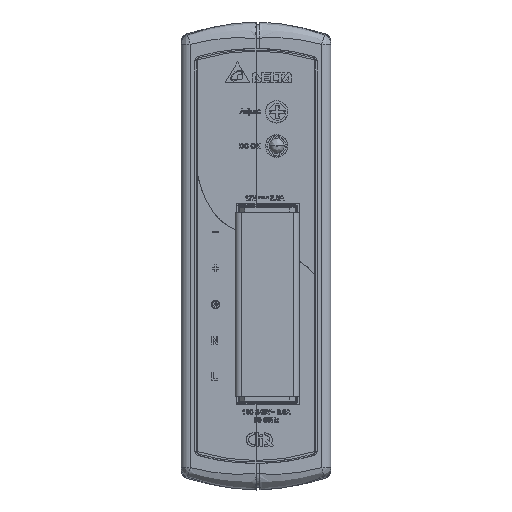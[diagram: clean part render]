
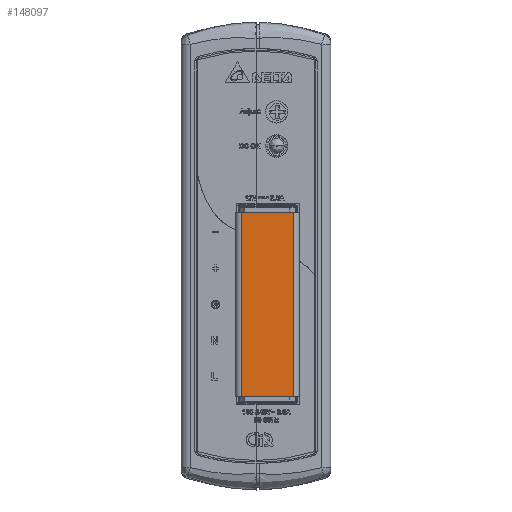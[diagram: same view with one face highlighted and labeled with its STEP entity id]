
A CAD part, top view. The second image highlights one B-rep face of the part: STEP entity #148097.
In plain terms, the highlighted planar face has unit normal (0, 0, 1) as drawn and (0, 1, 0) by its records, which use the part's own axes.
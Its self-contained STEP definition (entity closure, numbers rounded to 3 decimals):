
#147682=DIRECTION('',(-1.,0.,0.));
#147683=VECTOR('',#147682,11.15);
#147684=CARTESIAN_POINT('',(5.575,12.372,0.));
#147685=LINE('',#147684,#147683);
#147775=DIRECTION('',(0.,0.,1.));
#147776=VECTOR('',#147775,39.32);
#147777=CARTESIAN_POINT('',(-5.575,12.372,0.));
#147778=LINE('',#147777,#147776);
#147782=DIRECTION('',(0.,0.,1.));
#147783=VECTOR('',#147782,39.32);
#147784=CARTESIAN_POINT('',(5.575,12.372,0.));
#147785=LINE('',#147784,#147783);
#147869=DIRECTION('',(-1.,0.,0.));
#147870=VECTOR('',#147869,11.15);
#147871=CARTESIAN_POINT('',(5.575,12.372,39.32));
#147872=LINE('',#147871,#147870);
#147915=CARTESIAN_POINT('',(5.575,12.372,0.));
#147916=VERTEX_POINT('',#147915);
#147917=CARTESIAN_POINT('',(-5.575,12.372,0.));
#147918=VERTEX_POINT('',#147917);
#147939=CARTESIAN_POINT('',(5.575,12.372,39.32));
#147940=VERTEX_POINT('',#147939);
#147941=CARTESIAN_POINT('',(-5.575,12.372,39.32));
#147942=VERTEX_POINT('',#147941);
#148084=CARTESIAN_POINT('',(5.575,12.372,0.));
#148085=DIRECTION('',(0.,1.,0.));
#148086=DIRECTION('',(-1.,0.,0.));
#148087=AXIS2_PLACEMENT_3D('',#148084,#148085,#148086);
#148088=PLANE('',#148087);
#148089=ORIENTED_EDGE('',*,*,#147968,.F.);
#148091=ORIENTED_EDGE('',*,*,#148090,.T.);
#148093=ORIENTED_EDGE('',*,*,#148092,.T.);
#148094=ORIENTED_EDGE('',*,*,#148076,.F.);
#148095=EDGE_LOOP('',(#148089,#148091,#148093,#148094));
#148096=FACE_OUTER_BOUND('',#148095,.F.);
#147968=EDGE_CURVE('',#147916,#147918,#147685,.T.);
#148076=EDGE_CURVE('',#147918,#147942,#147778,.T.);
#148090=EDGE_CURVE('',#147916,#147940,#147785,.T.);
#148092=EDGE_CURVE('',#147940,#147942,#147872,.T.);
#148097=ADVANCED_FACE('',(#148096),#148088,.T.);
